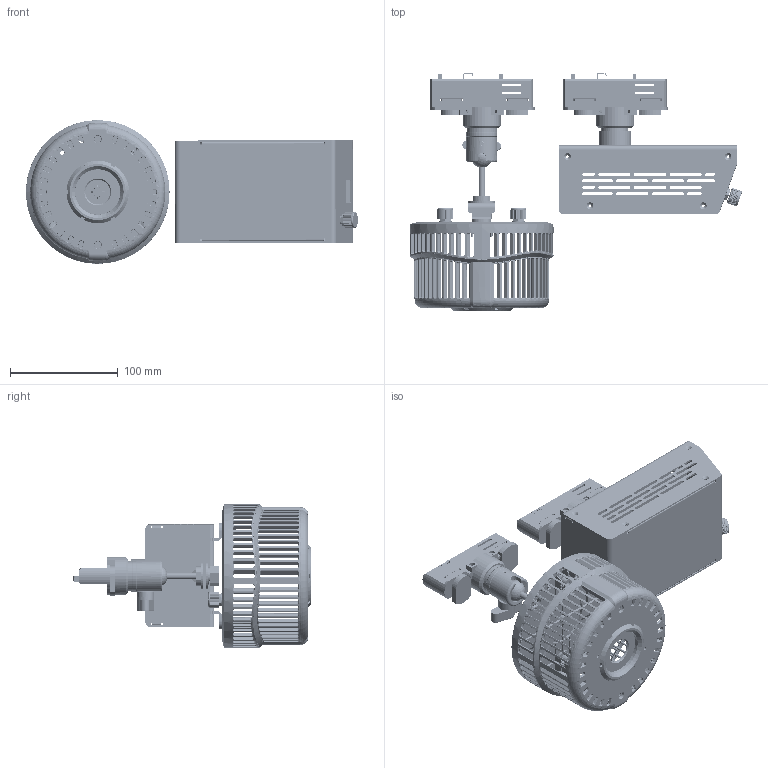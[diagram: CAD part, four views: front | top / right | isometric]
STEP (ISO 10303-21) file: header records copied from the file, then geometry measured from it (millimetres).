
FILE_DESCRIPTION (( 'STEP AP214' ), '1' );
FILE_NAME ('W500X-TEX-PSX.STEP', '2024-01-31T17:40:53', ( '' ), ( '' ), 'SwSTEP 2.0', 'SolidWorks 2022', '' );
FILE_SCHEMA (( 'AUTOMOTIVE_DESIGN' ));
Length unit declared in the file: millimetre
Products named in the file (26): 5022189_A1_Plate, OD=48, ID=23, T=2.0mm___; 5120530-XXX_A1_Assembly BOM, W500 Reflector Type_No Reflector; 5021416_A1_Hex Nut, M10xP1.5, T8 SUS___; 5022399_A1_Fix Ball Joint Part for EUTRAC, D=28mm___; 5120519-XXX_A3_Assembly BOM, Kessil W500 Power Box_TON(US)-PS; 5022693-XXX_A1_Bracket, 98.85x25x17.5, T=2.5mm___; 5022770-XXX_A1_RETAINING COLLAR M10P1.0 FOR ONETRACK POWER BOX OD30x29.8mm___; 5120540-XXX_A1_Rear Panel, OD=133, T=13.65mm, W-Series_5120531-001 W500; 5120522-XXX_A4_Assembly BOM, W360&W500 Light Mounting Type_TG; 5120539-XXX_A1_Housing, OD=133, ID=121, T=78.1mm, For Reflector, Without Logo___; 5020897-2010216520_ _Helical Spring Washer Customized___; 5020757-001_A1_VR Nut, Kessil A360 Aquarium Light___; 5022708-XXX_A2_Ball Joint Axis, L=65.8mm___; 5022405-XXX_A1_Wing Knob Screws, M6xL8.0mm_-001; 5021926-XXX_A2_KNOB, 18T, OD=14.9, ID=6, L=10MM_C1; 5022432-XXX_A2_250W Power Box Cover (TEX-PSX TYPE), 165x92x62.5(H)mm___; W500X-TEX-PSX; 5022431-XXX_A1_Ball Joint Part A, L=23.7mm___; 5022014-XYZ_A2_EUTRAC Multi Adapter_Finissh_2(No Locked); 62282-5014005_ _Standard Types of Metric Set Screws, M4xL5, Black___; 5022427-XXX_A4_250W Power Box FRAME (TG&TEX&CLP TYPE), 165x95x64mm___; 5010177-XXX_A2_Assembly BOM, Kessil W500_N-[TG]; 5022430-XXX_A1_Ball Joint Part C (For TDE), L=18.9mm___; 5020893-2010525020_ _Flat Washer, M10, ID10.5 OD25.0, T2 SUS 304___; 5120529-XXX_A1_Assembly BOM, W500 Light Engine_Finish; 5020757-002_A2_VR Washer, Kessil A360 Aquarium Light___
Assembly tree (33 placements, depth 4):
  W500X-TEX-PSX
    5010177-XXX_A2_Assembly BOM, Kessil W500_N-[TG]
      5120529-XXX_A1_Assembly BOM, W500 Light Engine_Finish
        5120540-XXX_A1_Rear Panel, OD=133, T=13.65mm, W-Series_5120531-001 W500
        5020757-002_A2_VR Washer, Kessil A360 Aquarium Light___  x2
        5020757-001_A1_VR Nut, Kessil A360 Aquarium Light___  x2
        5021926-XXX_A2_KNOB, 18T, OD=14.9, ID=6, L=10MM_C1  x2
      5120530-XXX_A1_Assembly BOM, W500 Reflector Type_No Reflector
        5120539-XXX_A1_Housing, OD=133, ID=121, T=78.1mm, For Reflector, Without Logo___
        5022189_A1_Plate, OD=48, ID=23, T=2.0mm___
      5120522-XXX_A4_Assembly BOM, W360&W500 Light Mounting Type_TG
        5022431-XXX_A1_Ball Joint Part A, L=23.7mm___
        5022430-XXX_A1_Ball Joint Part C (For TDE), L=18.9mm___
        5022708-XXX_A2_Ball Joint Axis, L=65.8mm___
        62282-5014005_ _Standard Types of Metric Set Screws, M4xL5, Black___
        5022405-XXX_A1_Wing Knob Screws, M6xL8.0mm_-001
        5022693-XXX_A1_Bracket, 98.85x25x17.5, T=2.5mm___
        5022014-XYZ_A2_EUTRAC Multi Adapter_Finissh_2(No Locked)
        5022399_A1_Fix Ball Joint Part for EUTRAC, D=28mm___
        5020893-2010525020_ _Flat Washer, M10, ID10.5 OD25.0, T2 SUS 304___  x2
        5020897-2010216520_ _Helical Spring Washer Customized___
        5021416_A1_Hex Nut, M10xP1.5, T8 SUS___
    5120519-XXX_A3_Assembly BOM, Kessil W500 Power Box_TON(US)-PS
      5022427-XXX_A4_250W Power Box FRAME (TG&TEX&CLP TYPE), 165x95x64mm___
      5022014-XYZ_A2_EUTRAC Multi Adapter_Finissh_2(No Locked)
      5022770-XXX_A1_RETAINING COLLAR M10P1.0 FOR ONETRACK POWER BOX OD30x29.8mm___
      5022432-XXX_A2_250W Power Box Cover (TEX-PSX TYPE), 165x92x62.5(H)mm___
      5020757-002_A2_VR Washer, Kessil A360 Aquarium Light___
      5020757-001_A1_VR Nut, Kessil A360 Aquarium Light___
      5021926-XXX_A2_KNOB, 18T, OD=14.9, ID=6, L=10MM_C1
Bounding box: 307.7 x 221.38 x 133 mm (x, y, z)
Volume: 356683.4 mm3; surface area: 341936.4 mm2
Topology: 38 solids, 38 shells, 6598 faces, 18210 edges, 11637 vertices
Faces by surface type: plane 2726, cylinder 2238, bspline 862, cone 435, torus 327, sphere 10
Entity records: 245520 total; most frequent: CARTESIAN_POINT 108174, ORIENTED_EDGE 29772, DIRECTION 24815, EDGE_CURVE 14886, VERTEX_POINT 9443, AXIS2_PLACEMENT_3D 9061, LINE 6693, VECTOR 6693
